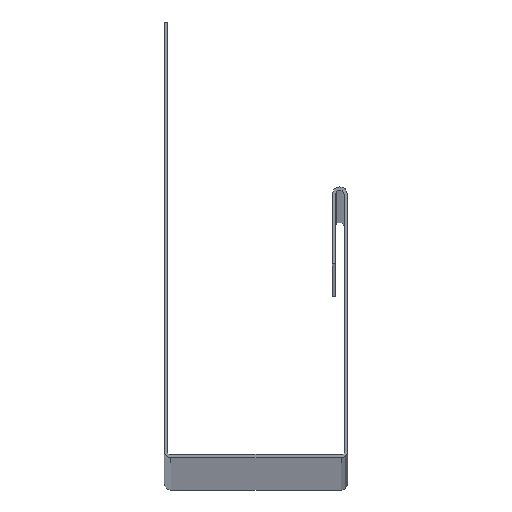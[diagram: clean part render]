
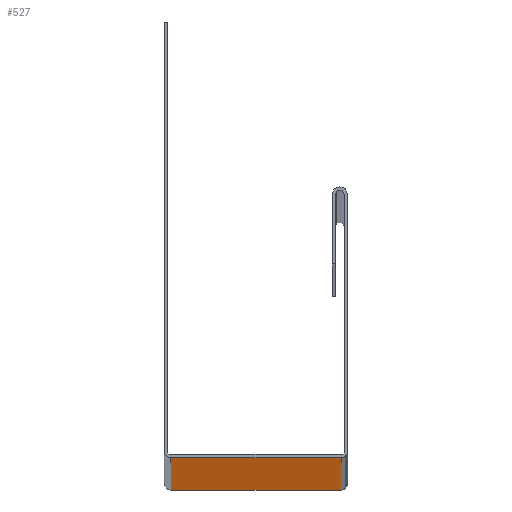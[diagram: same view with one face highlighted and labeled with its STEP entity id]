
A CAD part, top view. The second image highlights one B-rep face of the part: STEP entity #527.
In plain terms, the highlighted planar face has unit normal (0, -1, 0).
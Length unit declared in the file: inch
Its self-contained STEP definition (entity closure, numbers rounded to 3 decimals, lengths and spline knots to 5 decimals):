
#10 = DIRECTION ( 'NONE',  ( 1., 0., 0. ) ) ;
#19 = ORIENTED_EDGE ( 'NONE', *, *, #237, .T. ) ;
#28 = DIRECTION ( 'NONE',  ( 0., -1., 0. ) ) ;
#39 = CARTESIAN_POINT ( 'NONE',  ( 0.03937, 0., -120. ) ) ;
#124 = EDGE_LOOP ( 'NONE', ( #396, #644, #19, #137 ) ) ;
#131 = EDGE_CURVE ( 'NONE', #667, #515, #492, .T. ) ;
#132 = EDGE_CURVE ( 'NONE', #515, #250, #361, .T. ) ;
#137 = ORIENTED_EDGE ( 'NONE', *, *, #485, .T. ) ;
#156 = DIRECTION ( 'NONE',  ( 0., 0., 1. ) ) ;
#175 = LINE ( 'NONE', #294, #523 ) ;
#214 = DIRECTION ( 'NONE',  ( 1., 0., 0. ) ) ;
#218 = CARTESIAN_POINT ( 'NONE',  ( 0.03937, 0., 0. ) ) ;
#220 = VECTOR ( 'NONE', #680, 39.37008 ) ;
#229 = CARTESIAN_POINT ( 'NONE',  ( 1.14313, 0., 0. ) ) ;
#237 = EDGE_CURVE ( 'NONE', #667, #514, #175, .T. ) ;
#250 = VERTEX_POINT ( 'NONE', #229 ) ;
#294 = CARTESIAN_POINT ( 'NONE',  ( 0.03937, 0., -120. ) ) ;
#305 = VECTOR ( 'NONE', #214, 39.37008 ) ;
#308 = PLANE ( 'NONE',  #368 ) ;
#329 = VECTOR ( 'NONE', #156, 39.37008 ) ;
#360 = CARTESIAN_POINT ( 'NONE',  ( 0.03937, 0., -120. ) ) ;
#361 = LINE ( 'NONE', #218, #305 ) ;
#368 = AXIS2_PLACEMENT_3D ( 'NONE', #360, #28, #421 ) ;
#396 = ORIENTED_EDGE ( 'NONE', *, *, #132, .F. ) ;
#413 = CARTESIAN_POINT ( 'NONE',  ( 1.14313, 0., -120. ) ) ;
#417 = CARTESIAN_POINT ( 'NONE',  ( 0.03937, 0., 0. ) ) ;
#421 = DIRECTION ( 'NONE',  ( 0., 0., -1. ) ) ;
#485 = EDGE_CURVE ( 'NONE', #514, #250, #699, .T. ) ;
#492 = LINE ( 'NONE', #500, #329 ) ;
#500 = CARTESIAN_POINT ( 'NONE',  ( 0.03937, 0., -120. ) ) ;
#514 = VERTEX_POINT ( 'NONE', #413 ) ;
#515 = VERTEX_POINT ( 'NONE', #417 ) ;
#518 = CARTESIAN_POINT ( 'NONE',  ( 1.14313, 0., -120. ) ) ;
#523 = VECTOR ( 'NONE', #10, 39.37008 ) ;
#527 = ADVANCED_FACE ( 'NONE', ( #679 ), #308, .T. ) ;
#644 = ORIENTED_EDGE ( 'NONE', *, *, #131, .F. ) ;
#667 = VERTEX_POINT ( 'NONE', #39 ) ;
#679 = FACE_OUTER_BOUND ( 'NONE', #124, .T. ) ;
#680 = DIRECTION ( 'NONE',  ( 0., 0., 1. ) ) ;
#699 = LINE ( 'NONE', #518, #220 ) ;
